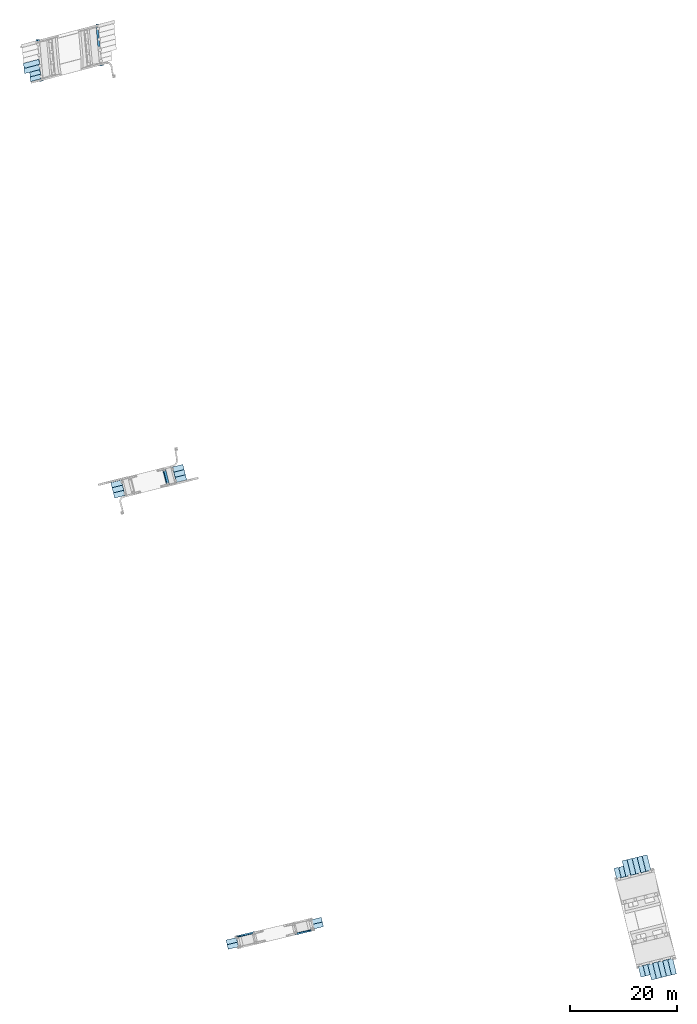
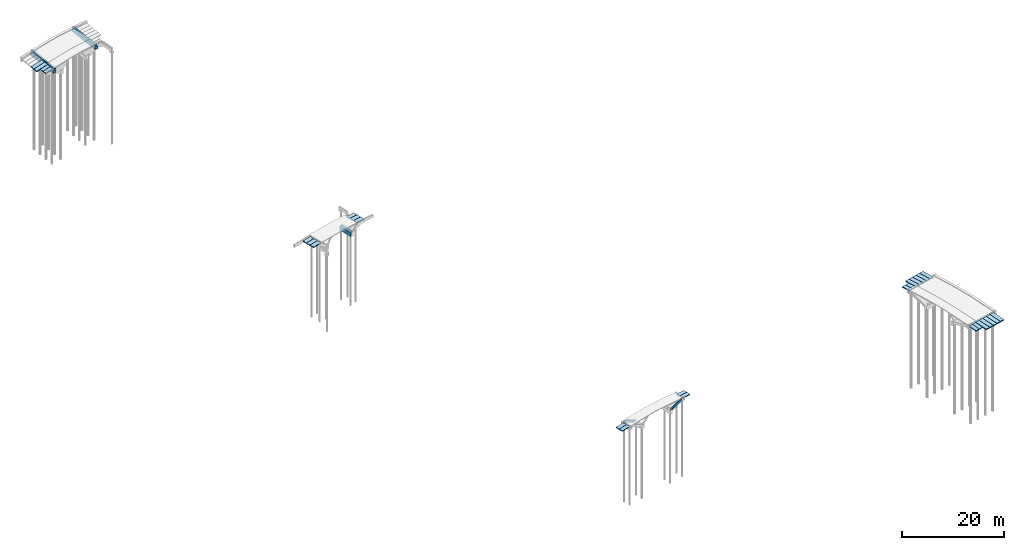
# One storey, part 3 of 15: 28 slabs, 5 footings.
"""IFC2X3 building model written with IfcOpenShell, lengths in millimetres."""

from ifc_helpers import new_model, entity, si_unit, converted_unit, derived_unit, direction, frame, frame_2d, origin, origin_2d_with_axis, place, context, subcontext, project, spatial, polyline, rectangle, outline, extrude, face_set, faceted_brep, surface_model, material, type_object, element, save


model = new_model("IFC2X3")

# Units and contexts
model_context = context("Model", 3, precision=0.01, world=origin(), true_north=direction((6.12303176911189e-17, 1.0)))
body_context = subcontext(model_context, "Body", "Model", "MODEL_VIEW")
ifc_project = project(units=[si_unit("LENGTHUNIT", "METRE", prefix="MILLI"), si_unit("AREAUNIT", "SQUARE_METRE"), si_unit("VOLUMEUNIT", "CUBIC_METRE"), converted_unit("PLANEANGLEUNIT", "DEGREE", entity("IfcRatioMeasure", 0.0174532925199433), si_unit("PLANEANGLEUNIT", "RADIAN"), dimensions=[0, 0, 0, 0, 0, 0, 0]), si_unit("MASSUNIT", "GRAM", prefix="KILO"), derived_unit("MASSDENSITYUNIT", [(si_unit("MASSUNIT", "GRAM", prefix="KILO"), 1), (si_unit("LENGTHUNIT", "METRE"), -3)]), si_unit("TIMEUNIT", "SECOND"), si_unit("FREQUENCYUNIT", "HERTZ"), si_unit("THERMODYNAMICTEMPERATUREUNIT", "DEGREE_CELSIUS"), derived_unit("THERMALTRANSMITTANCEUNIT", [(si_unit("MASSUNIT", "GRAM", prefix="KILO"), 1), (si_unit("THERMODYNAMICTEMPERATUREUNIT", "KELVIN"), -1), (si_unit("TIMEUNIT", "SECOND"), -3)]), derived_unit("VOLUMETRICFLOWRATEUNIT", [(si_unit("LENGTHUNIT", "METRE"), 3), (si_unit("TIMEUNIT", "SECOND"), -1)]), si_unit("ELECTRICCURRENTUNIT", "AMPERE"), si_unit("ELECTRICVOLTAGEUNIT", "VOLT"), si_unit("POWERUNIT", "WATT"), si_unit("FORCEUNIT", "NEWTON", prefix="KILO"), si_unit("ILLUMINANCEUNIT", "LUX"), si_unit("LUMINOUSFLUXUNIT", "LUMEN"), si_unit("LUMINOUSINTENSITYUNIT", "CANDELA"), derived_unit("USERDEFINED", [(si_unit("MASSUNIT", "GRAM", prefix="KILO"), -1), (si_unit("LENGTHUNIT", "METRE"), -2), (si_unit("TIMEUNIT", "SECOND"), 3), (si_unit("LUMINOUSFLUXUNIT", "LUMEN"), 1)]), derived_unit("LINEARVELOCITYUNIT", [(si_unit("LENGTHUNIT", "METRE"), 1), (si_unit("TIMEUNIT", "SECOND"), -1)]), si_unit("PRESSUREUNIT", "PASCAL"), derived_unit("USERDEFINED", [(si_unit("LENGTHUNIT", "METRE"), -2), (si_unit("MASSUNIT", "GRAM", prefix="KILO"), 1), (si_unit("TIMEUNIT", "SECOND"), -2)])], contexts=[model_context])

# Site, building, storey
site_placement = place(None, origin())
site = spatial("IfcSite", under=ifc_project, at=site_placement, Name="Bruggen Achterburggracht Machinesloot", CompositionType="ELEMENT")
building_placement = place(site_placement, origin())
building = spatial("IfcBuilding", under=site, at=building_placement, Name="Bruggen Achterburggracht Machinesloot", CompositionType="ELEMENT")
storey_placement = place(building_placement, origin())
storey = spatial("IfcBuildingStorey", under=building, at=storey_placement, Name="00 begane grond", CompositionType="ELEMENT", Elevation=2.70716782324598e-13)

# Footings
ifc_material_1 = material(Name="00_PBT_MAT_beton t.p.g.")
footing_1_placement = place(storey_placement, frame((-50182.6545030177, 37332.1612238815, -2350.0)))
element("IfcFooting", 1, at=footing_1_placement, inside=storey, material=ifc_material_1, Name="16_PBT_SF_funderingsbalk enkele sponning:Brug 2_600x1000", ObjectType="16_PBT_SF_funderingsbalk enkele sponning:Brug 2_600x1000", PredefinedType="NOTDEFINED", context=body_context, shape_type="Brep", body=[
    faceted_brep([(808.541298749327, 0.0, 1000.0), (808.541298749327, 0.0, 0.0), (810.6701906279, 0.538003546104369, 0.0), (810.6701906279, 0.538003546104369, 997.473997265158), (581.711949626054, 3346.4232318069, 831.46717256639), (581.711949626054, 3346.4232318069, 1190.31879435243), (1316.74949394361, 437.863483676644, 1190.3187943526), (1316.74949394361, 437.863483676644, 830.443244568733), (1316.74949394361, 437.86348367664, 0.0), (581.711949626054, 3346.4232318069, 0.0), (0.0, 3199.41572294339, 0.0), (737.166436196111, 291.393978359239, 0.0), (0.0, 3199.41572294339, 1000.0), (159.015573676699, 3239.60139107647, 811.322604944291), (737.16643619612, 291.393978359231, 997.473997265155), (894.05311799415, 331.041642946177, 811.32260494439)], [[[0, 1, 2, 3]], [[4, 5, 6, 7, 8, 9]], [[1, 10, 9, 8, 11, 2]], [[1, 0, 12, 10]], [[9, 10, 12, 13, 5, 4]], [[12, 0, 3, 14, 15, 13]], [[5, 13, 15, 6]], [[14, 11, 8, 7, 6, 15]], [[11, 14, 3, 2]]]),
])
footing_2_placement = place(storey_placement, frame((-62579.0474289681, 115635.375964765, -860.0)))
element("IfcFooting", 2, at=footing_2_placement, inside=storey, material=ifc_material_1, Name="319-150_funderingsbalk tpv stootplaat:Brug 1_700x1100", ObjectType="319-150_funderingsbalk tpv stootplaat:Brug 1_700x1100", PredefinedType="NOTDEFINED", context=body_context, shape_type="SurfaceModel", body=[
    surface_model("IfcFaceBasedSurfaceModel", [(706.114451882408, 0.0, 0.0), (1403.2402215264, 63.3692456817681, 0.0), (1403.2402215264, 63.3692456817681, 555.0), (1253.85612803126, 49.7901216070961, 600.0), (1104.47203453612, 36.2109975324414, 600.0), (1104.47203453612, 36.2109975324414, 1100.0), (706.114451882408, 0.0, 1100.0), (0.0, 7767.97286174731, 0.0), (0.0, 7767.97286174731, 1100.0), (398.357582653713, 7804.18385927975, 1100.0), (398.357582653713, 7804.18385927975, 600.0), (547.741676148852, 7817.7629833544, 600.0), (697.125769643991, 7831.34210742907, 555.0), (697.125769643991, 7831.34210742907, 0.0)], [face_set([[[0, 1, 2, 3, 4, 5, 6]], [[7, 8, 9, 10, 11, 12, 13]], [[1, 0, 7, 13]], [[2, 1, 13, 12]], [[3, 2, 12, 11]], [[4, 3, 11, 10]], [[5, 4, 10, 9]], [[6, 5, 9, 8]], [[0, 7, 8, 6]]])]),
])
footing_3_placement = place(storey_placement, frame((-73744.1008748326, 112750.136853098, -860.0)))
element("IfcFooting", 3, at=footing_3_placement, inside=storey, material=ifc_material_1, Name="319-150_funderingsbalk tpv stootplaat:Brug 1_700x1100", ObjectType="319-150_funderingsbalk tpv stootplaat:Brug 1_700x1100", PredefinedType="NOTDEFINED", context=body_context, shape_type="SurfaceModel", body=[
    surface_model("IfcFaceBasedSurfaceModel", [(697.125769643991, 7831.34210742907, 0.0), (0.0, 7767.97286174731, 0.0), (0.0, 7767.97286174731, 555.0), (149.384093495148, 7781.55198582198, 600.0), (298.768186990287, 7795.13110989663, 600.0), (298.768186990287, 7795.13110989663, 1100.0), (697.125769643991, 7831.34210742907, 1100.0), (1403.24022152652, 63.3692456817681, 0.0), (1403.24022152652, 63.3692456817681, 1100.0), (1004.88263887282, 27.1582481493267, 1100.0), (1004.88263887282, 27.1582481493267, 600.0), (855.498545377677, 13.579124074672, 600.0), (706.114451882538, 0.0, 555.0), (706.114451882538, 0.0, 0.0)], [face_set([[[0, 1, 2, 3, 4, 5, 6]], [[7, 8, 9, 10, 11, 12, 13]], [[1, 0, 7, 13]], [[2, 12, 13, 1]], [[3, 2, 12, 11]], [[4, 3, 11, 10]], [[5, 9, 10, 4]], [[6, 5, 9, 8]], [[0, 6, 8, 7]]])]),
])
footing_4_placement = place(storey_placement, frame((-36328.9327912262, -46525.4901580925, -1630.18223357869)))
element("IfcFooting", 4, at=footing_4_placement, inside=storey, material=ifc_material_1, Name="16_PBT_SF_funderingsbalk:300x500 i.h.w.g.", ObjectType="16_PBT_SF_funderingsbalk:300x500 i.h.w.g.", PredefinedType="NOTDEFINED", context=body_context, shape_type="Brep", body=[
    faceted_brep([(0.0, 291.857014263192, 1274.1812778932), (69.4224979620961, 0.0, 1274.18272028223), (201.9895374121, 31.5345392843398, 1580.24136807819), (132.567039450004, 323.39155354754, 1580.23992568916), (3367.89164380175, 1092.95483140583, 280.181508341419), (527.169008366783, 417.253455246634, 1580.23992568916), (596.591506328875, 125.396440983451, 1580.24136807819), (3437.31570878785, 801.098189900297, 280.182233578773), (3437.31414176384, 801.09781714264, 280.182950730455), (324.164868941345, 60.5957449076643, 1580.24136807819), (324.165339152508, 60.593768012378, 1157.59950627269), (2853.5974268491, 662.250797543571, 0.0033947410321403), (2853.59704838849, 662.252388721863, 340.182233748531), (3096.81122696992, 720.104470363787, 340.182233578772), (3096.811293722, 720.104189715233, 280.182233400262), (2784.17919491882, 954.108826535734, 0.0), (3367.89164380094, 1092.95483140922, 280.182233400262), (3027.39306178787, 1011.96221872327, 280.182233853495), (3027.39299503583, 1011.96249937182, 340.182233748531), (2784.17881645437, 954.110417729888, 340.182233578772), (3027.37984008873, 1012.01780727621, 280.182233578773), (3027.39306260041, 1011.96221891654, 280.182233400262), (3367.89005911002, 1092.95445444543, 280.182233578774), (3437.31383113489, 801.097743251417, 280.182233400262), (3027.37984008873, 1012.01780727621, 340.182233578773), (2784.16481594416, 954.169280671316, 340.182233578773)], [[[0, 1, 2, 3]], [[4, 5, 6, 7]], [[8, 6, 9, 2, 1, 10, 11, 12, 13, 14]], [[1, 0, 15, 11, 10]], [[5, 16, 17, 18, 19, 15, 0, 3]], [[20, 14, 13, 18]], [[14, 21, 22, 23]], [[24, 13, 12, 19]], [[25, 12, 11, 15]], [[2, 9, 6, 5, 3]]]),
])
footing_5_placement = place(storey_placement, frame((-25665.1292745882, -46147.5905152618, -1630.16466344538)))
element("IfcFooting", 5, at=footing_5_placement, inside=storey, material=ifc_material_1, Name="16_PBT_SF_funderingsbalk:300x500 i.h.w.g.", ObjectType="16_PBT_SF_funderingsbalk:300x500 i.h.w.g.", PredefinedType="NOTDEFINED", context=body_context, shape_type="Brep", body=[
    faceted_brep([(69.4177615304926, 3.38720838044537e-09, 280.163938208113), (2910.18019979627, 675.646018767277, 1580.23389281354), (2840.76400529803, 967.504532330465, 1580.23533520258), (0.0, 291.858140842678, 280.164663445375), (0.00156703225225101, 291.858513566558, 280.165380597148), (3113.20872736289, 1032.30331303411, 1580.2353351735), (3113.20825713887, 1032.3052898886, 1157.60110932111), (583.752255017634, 430.70029312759, 0.0), (583.752633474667, 430.698702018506, 340.164663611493), (340.53720547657, 372.851873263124, 340.164663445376), (340.53713872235, 372.852153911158, 280.164663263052), (3182.63075512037, 740.448275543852, 1157.60255171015), (653.172715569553, 138.842794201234, 0.000509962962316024), (69.4177615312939, 0.0, 280.164662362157), (409.957599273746, 80.9946549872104, 280.164663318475), (409.957665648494, 80.9943742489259, 340.164662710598), (653.173094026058, 138.84120309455, 340.164663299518), (3182.63122534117, 740.446298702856, 1580.23389278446), (409.951491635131, 81.0203327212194, 280.164663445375), (394.459007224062, 146.1538353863, 280.164663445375), (394.213373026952, 147.186530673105, 340.164663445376), (409.957666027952, 80.9943743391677, 340.164663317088), (409.957598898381, 80.9946548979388, 280.164662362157), (69.4144226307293, 0.0210770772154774, 280.164663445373), (0.00187766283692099, 291.858587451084, 280.164663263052), (409.951491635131, 81.0203327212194, 340.164663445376), (653.17309359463, 138.841202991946, 340.164662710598), (653.16607404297, 138.870716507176, 340.164663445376)], [[[0, 1, 2, 3]], [[4, 2, 5, 6, 7, 8, 9, 10]], [[6, 11, 12, 7]], [[1, 13, 14, 15, 16, 12, 11, 17]], [[2, 1, 17, 5]], [[6, 5, 17, 11]], [[18, 19, 10, 9, 20, 21]], [[10, 19, 22, 23, 24]], [[25, 20, 9, 8, 26]], [[27, 8, 7, 12]]]),
])

# Slabs
ifc_material_2 = material(Name="00_PBT_MAT_beton prefab")
slab_type_1 = type_object("IfcSlabType", Name="Strootplaat 3", PredefinedType="FLOOR", material=ifc_material_2)
slab_1_placement = place(storey_placement, origin())
element("IfcSlab", 6, at=slab_1_placement, inside=storey, type_object=slab_type_1, Name="Strootplaat1:Strootplaat 3", ObjectType="Strootplaat1:Strootplaat 3", PredefinedType="FLOOR", context=body_context, shape_type="SweptSolid", body=[
    extrude(rectangle(XDim=200.0, YDim=885.000000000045, at=frame_2d((-1.77635683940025e-13, 4.83169060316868e-13), x_axis=(1.0, 0.0))), frame((-38036.653625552, -48328.2566855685, -452.20341270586), z_axis=(0.97152095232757, 0.231101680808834, 0.0523359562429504), x_axis=(0.0509152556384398, 0.0121115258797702, -0.998629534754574)), (0.0, -3.81275281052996e-06, 1.0), 1999.99649648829),
])
slab_type_2 = type_object("IfcSlabType", Name="Strootplaat 3", PredefinedType="FLOOR", material=ifc_material_2)
slab_2_placement = place(storey_placement, origin())
element("IfcSlab", 7, at=slab_2_placement, inside=storey, type_object=slab_type_2, Name="Strootplaat 2:Strootplaat 3", ObjectType="Strootplaat 2:Strootplaat 3", PredefinedType="FLOOR", context=body_context, shape_type="SweptSolid", body=[
    extrude(rectangle(XDim=200.0, YDim=885.000000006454, at=frame_2d((-2.1316282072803e-14, 0.0), x_axis=(1.0, 0.0))), frame((-22257.6750364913, -44580.0804966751, -347.531588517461), z_axis=(0.971521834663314, 0.231097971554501, -0.05233595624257), x_axis=(-0.0509152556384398, -0.0121115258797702, -0.998629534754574)), (0.0, 3.8127528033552e-06, 1.0), 1999.99831288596),
])
slab_type_3 = type_object("IfcSlabType", Name="Strootplaat 3", PredefinedType="FLOOR", material=ifc_material_2)
slab_3_placement = place(storey_placement, origin())
element("IfcSlab", 8, at=slab_3_placement, inside=storey, type_object=slab_type_3, Name="Strootplaat 4:Strootplaat 3", ObjectType="Strootplaat 4:Strootplaat 3", PredefinedType="FLOOR", context=body_context, shape_type="SweptSolid", body=[
    extrude(rectangle(XDim=200.0, YDim=885.000000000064, at=frame_2d((-4.2632564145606e-14, -4.71800376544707e-12), x_axis=(1.0, 0.0))), frame((-38242.6272888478, -47462.2168349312, -452.203412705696), z_axis=(0.971525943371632, 0.23108069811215, 0.052335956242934), x_axis=(0.0509155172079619, 0.0121104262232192, -0.998629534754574)), (0.0, -3.81275280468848e-06, 1.0), 1999.99649666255),
])
slab_type_4 = type_object("IfcSlabType", Name="Strootplaat 3", PredefinedType="FLOOR", material=ifc_material_2)
slab_4_placement = place(storey_placement, origin())
element("IfcSlab", 9, at=slab_4_placement, inside=storey, type_object=slab_type_4, Name="Strootplaat 1:Strootplaat 3", ObjectType="Strootplaat 1:Strootplaat 3", PredefinedType="FLOOR", context=body_context, shape_type="SweptSolid", body=[
    extrude(rectangle(XDim=200.0, YDim=885.00000000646, at=origin_2d_with_axis()), frame((-22464.2821100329, -43709.222047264, -347.53158851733), z_axis=(0.971525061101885, 0.231084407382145, -0.0523359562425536), x_axis=(-0.0509155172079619, -0.0121104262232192, -0.998629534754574)), (0.0, -3.81275280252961e-06, 1.0), 1999.99831288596),
])
slab_type_5 = type_object("IfcSlabType", Name="Strootplaat 3", PredefinedType="FLOOR", material=ifc_material_2)
slab_5_placement = place(storey_placement, origin())
element("IfcSlab", 10, at=slab_5_placement, inside=storey, type_object=slab_type_5, Name="Strootplaat 3:Strootplaat 3", ObjectType="Strootplaat 3:Strootplaat 3", PredefinedType="FLOOR", context=body_context, shape_type="SweptSolid", body=[
    extrude(rectangle(XDim=200.0, YDim=990.000000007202, at=frame_2d((1.20792265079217e-13, -5.22959453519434e-12), x_axis=(1.0, 0.0))), frame((-47960.7973825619, 39545.9167415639, -82.5315780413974), z_axis=(0.968192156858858, 0.244673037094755, -0.0523359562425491), x_axis=(-0.0507407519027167, -0.012822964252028, -0.998629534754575)), (0.0, 3.81275279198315e-06, 1.0), 1999.99851305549),
])
slab_type_6 = type_object("IfcSlabType", Name="Strootplaat 3", PredefinedType="FLOOR", material=ifc_material_2)
slab_6_placement = place(storey_placement, origin())
element("IfcSlab", 11, at=slab_6_placement, inside=storey, type_object=slab_type_6, Name="Strootplaat 5:Strootplaat 3", ObjectType="Strootplaat 5:Strootplaat 3", PredefinedType="FLOOR", context=body_context, shape_type="SweptSolid", body=[
    extrude(rectangle(XDim=200.0, YDim=990.000000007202, at=frame_2d((1.20792265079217e-13, -5.22959453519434e-12), x_axis=(1.0, 0.0))), frame((-48204.5848347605, 40510.5890580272, -82.5315780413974), z_axis=(0.968192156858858, 0.244673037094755, -0.0523359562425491), x_axis=(-0.0507407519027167, -0.012822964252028, -0.998629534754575)), (0.0, 3.81275279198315e-06, 1.0), 1999.99851305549),
])
slab_type_7 = type_object("IfcSlabType", Name="Strootplaat 3", PredefinedType="FLOOR", material=ifc_material_2)
slab_7_placement = place(storey_placement, origin())
element("IfcSlab", 12, at=slab_7_placement, inside=storey, type_object=slab_type_7, Name="Strootplaat 6:Strootplaat 3", ObjectType="Strootplaat 6:Strootplaat 3", PredefinedType="FLOOR", context=body_context, shape_type="SweptSolid", body=[
    extrude(rectangle(XDim=200.0, YDim=990.000000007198, at=frame_2d((6.3948846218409e-14, -3.18323145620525e-12), x_axis=(1.0, 0.0))), frame((-47717.0099303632, 38581.2444251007, -82.5315780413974), z_axis=(0.968192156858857, 0.244673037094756, -0.0523359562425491), x_axis=(-0.0507407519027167, -0.012822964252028, -0.998629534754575)), (0.0, 3.81275279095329e-06, 1.0), 1999.99851305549),
])
slab_type_8 = type_object("IfcSlabType", Name="Strootplaat 3", PredefinedType="FLOOR", material=ifc_material_2)
slab_8_placement = place(storey_placement, origin())
element("IfcSlab", 13, at=slab_8_placement, inside=storey, type_object=slab_type_8, Name="Strootplaat 7:Strootplaat 3", ObjectType="Strootplaat 7:Strootplaat 3", PredefinedType="FLOOR", context=body_context, shape_type="SweptSolid", body=[
    extrude(rectangle(XDim=200.0, YDim=990.00000000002, at=frame_2d((4.2632564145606e-13, 0.0), x_axis=(1.0, 0.0))), frame((-59422.9745811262, 36649.2492118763, -187.203412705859), z_axis=(0.968191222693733, 0.244676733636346, 0.0523359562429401), x_axis=(0.0507407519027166, 0.0128229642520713, -0.998629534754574)), (0.0, 3.81275281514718e-06, 1.0), 2000.00044279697),
])
slab_type_9 = type_object("IfcSlabType", Name="Strootplaat 3", PredefinedType="FLOOR", material=ifc_material_2)
slab_9_placement = place(storey_placement, origin())
element("IfcSlab", 14, at=slab_9_placement, inside=storey, type_object=slab_type_9, Name="Strootplaat 8:Strootplaat 3", ObjectType="Strootplaat 8:Strootplaat 3", PredefinedType="FLOOR", context=body_context, shape_type="SweptSolid", body=[
    extrude(rectangle(XDim=200.0, YDim=990.000000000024, at=frame_2d((-1.4210854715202e-14, 0.0), x_axis=(1.0, 0.0))), frame((-59666.7620333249, 37613.9215283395, -187.203412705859), z_axis=(0.968191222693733, 0.244676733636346, 0.0523359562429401), x_axis=(0.0507407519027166, 0.0128229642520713, -0.998629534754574)), (0.0, 3.81275281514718e-06, 1.0), 2000.00044279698),
])
slab_type_10 = type_object("IfcSlabType", Name="Strootplaat 3", PredefinedType="FLOOR", material=ifc_material_2)
slab_10_placement = place(storey_placement, origin())
element("IfcSlab", 15, at=slab_10_placement, inside=storey, type_object=slab_type_10, Name="Strootplaat 9:Strootplaat 3", ObjectType="Strootplaat 9:Strootplaat 3", PredefinedType="FLOOR", context=body_context, shape_type="SweptSolid", body=[
    extrude(rectangle(XDim=200.0, YDim=990.000000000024, at=frame_2d((-1.4210854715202e-14, 0.0), x_axis=(1.0, 0.0))), frame((-59179.1871289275, 35684.5768954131, -187.203412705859), z_axis=(0.968191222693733, 0.244676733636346, 0.0523359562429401), x_axis=(0.0507407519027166, 0.0128229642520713, -0.998629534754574)), (0.0, 3.81275281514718e-06, 1.0), 2000.00044279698),
])
slab_type_11 = type_object("IfcSlabType", Name="Strootplaat 3", PredefinedType="FLOOR", material=ifc_material_2)
slab_11_placement = place(storey_placement, origin())
element("IfcSlab", 16, at=slab_11_placement, inside=storey, type_object=slab_type_11, Name="Strootplaat 14:Strootplaat 3", ObjectType="Strootplaat 14:Strootplaat 3", PredefinedType="FLOOR", context=body_context, shape_type="SweptSolid", body=[
    extrude(rectangle(XDim=250.000000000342, YDim=950.00000000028, at=frame_2d((-3.05533376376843e-13, 5.22959453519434e-12), x_axis=(1.0, 0.0))), frame((41295.229444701, -54352.0467557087, -354.713003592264), z_axis=(-0.239781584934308, 0.96941515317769, 0.0523359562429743), x_axis=(-0.012566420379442, 0.0508048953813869, -0.998629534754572)), (0.0, -3.81275280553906e-06, 1.0), 2999.99352799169),
])
slab_type_12 = type_object("IfcSlabType", Name="Strootplaat 3", PredefinedType="FLOOR", material=ifc_material_2)
slab_12_placement = place(storey_placement, origin())
element("IfcSlab", 17, at=slab_12_placement, inside=storey, type_object=slab_type_12, Name="Strootplaat 10:Strootplaat 3", ObjectType="Strootplaat 10:Strootplaat 3", PredefinedType="FLOOR", context=body_context, shape_type="SweptSolid", body=[
    extrude(rectangle(XDim=250.000000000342, YDim=950.00000000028, at=frame_2d((1.20792265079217e-13, 5.22959453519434e-12), x_axis=(1.0, 0.0))), frame((42227.1155693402, -54121.4209490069, -354.713003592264), z_axis=(-0.239781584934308, 0.96941515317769, 0.0523359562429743), x_axis=(-0.012566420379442, 0.0508048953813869, -0.998629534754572)), (0.0, -3.81275280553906e-06, 1.0), 2999.99352799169),
])
slab_type_13 = type_object("IfcSlabType", Name="Strootplaat 3", PredefinedType="FLOOR", material=ifc_material_2)
slab_13_placement = place(storey_placement, origin())
element("IfcSlab", 18, at=slab_13_placement, inside=storey, type_object=slab_type_13, Name="Strootplaat 11:Strootplaat 3", ObjectType="Strootplaat 11:Strootplaat 3", PredefinedType="FLOOR", context=body_context, shape_type="SweptSolid", body=[
    extrude(rectangle(XDim=250.000000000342, YDim=950.00000000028, at=frame_2d((1.20792265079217e-13, 5.22959453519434e-12), x_axis=(1.0, 0.0))), frame((43159.0624144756, -53891.0406156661, -354.713003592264), z_axis=(-0.239781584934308, 0.96941515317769, 0.0523359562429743), x_axis=(-0.012566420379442, 0.0508048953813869, -0.998629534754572)), (0.0, -3.81275280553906e-06, 1.0), 2999.99352799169),
])
slab_type_14 = type_object("IfcSlabType", Name="Strootplaat 3", PredefinedType="FLOOR", material=ifc_material_2)
slab_14_placement = place(storey_placement, origin())
element("IfcSlab", 19, at=slab_14_placement, inside=storey, type_object=slab_type_14, Name="Strootplaat 12:Strootplaat 3", ObjectType="Strootplaat 12:Strootplaat 3", PredefinedType="FLOOR", context=body_context, shape_type="SweptSolid", body=[
    extrude(rectangle(XDim=250.000000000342, YDim=950.00000000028, at=frame_2d((1.20792265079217e-13, 5.22959453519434e-12), x_axis=(1.0, 0.0))), frame((44090.9781196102, -53660.5343933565, -354.713003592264), z_axis=(-0.239781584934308, 0.96941515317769, 0.0523359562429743), x_axis=(-0.012566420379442, 0.0508048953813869, -0.998629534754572)), (0.0, -3.81275280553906e-06, 1.0), 2999.99352799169),
])
slab_type_15 = type_object("IfcSlabType", Name="Strootplaat 3", PredefinedType="FLOOR", material=ifc_material_2)
slab_15_placement = place(storey_placement, origin())
element("IfcSlab", 20, at=slab_15_placement, inside=storey, type_object=slab_type_15, Name="Strootplaat 13:Strootplaat 3", ObjectType="Strootplaat 13:Strootplaat 3", PredefinedType="FLOOR", context=body_context, shape_type="SweptSolid", body=[
    extrude(rectangle(XDim=250.000000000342, YDim=950.00000000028, at=frame_2d((-3.05533376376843e-13, 5.22959453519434e-12), x_axis=(1.0, 0.0))), frame((45022.8938247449, -53430.0281710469, -354.713003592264), z_axis=(-0.239781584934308, 0.96941515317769, 0.0523359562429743), x_axis=(-0.012566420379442, 0.0508048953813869, -0.998629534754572)), (0.0, -3.81275280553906e-06, 1.0), 2999.9935279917),
])
slab_type_16 = type_object("IfcSlabType", Name="Strootplaat 3", PredefinedType="FLOOR", material=ifc_material_2)
slab_16_placement = place(storey_placement, origin())
element("IfcSlab", 21, at=slab_16_placement, inside=storey, type_object=slab_type_16, Name="Strootplaat 15:Strootplaat 3", ObjectType="Strootplaat 15:Strootplaat 3", PredefinedType="FLOOR", context=body_context, shape_type="SweptSolid", body=[
    extrude(rectangle(XDim=199.999801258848, YDim=884.969877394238, at=frame_2d((4.2632564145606e-13, -3.15480974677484e-12), x_axis=(1.0, 0.0))), frame((39285.9346456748, -53818.9644488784, -327.342845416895), z_axis=(-0.239781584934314, 0.969415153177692, 0.0523359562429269), x_axis=(-0.0125664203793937, 0.05080489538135, -0.998629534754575)), (0.0, -3.8127528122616e-06, 1.0), 1999.99384089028),
])
slab_type_17 = type_object("IfcSlabType", Name="Strootplaat 3", PredefinedType="FLOOR", material=ifc_material_2)
slab_17_placement = place(storey_placement, origin())
element("IfcSlab", 22, at=slab_17_placement, inside=storey, type_object=slab_type_17, Name="Strootplaat 16:Strootplaat 3", ObjectType="Strootplaat 16:Strootplaat 3", PredefinedType="FLOOR", context=body_context, shape_type="SweptSolid", body=[
    extrude(rectangle(XDim=199.999801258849, YDim=884.969877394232, at=frame_2d((-4.05009359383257e-13, 1.05160324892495e-12), x_axis=(1.0, 0.0))), frame((40154.7518916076, -53604.0654187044, -327.342845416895), z_axis=(-0.239781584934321, 0.969415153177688, 0.0523359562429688), x_axis=(-0.0125664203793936, 0.0508048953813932, -0.998629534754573)), (0.0, -3.81275282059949e-06, 1.0), 1999.99384089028),
])
slab_type_18 = type_object("IfcSlabType", Name="Strootplaat 3", PredefinedType="FLOOR", material=ifc_material_2)
slab_18_placement = place(storey_placement, origin())
element("IfcSlab", 23, at=slab_18_placement, inside=storey, type_object=slab_type_18, Name="Strootplaat 17:Strootplaat 3", ObjectType="Strootplaat 17:Strootplaat 3", PredefinedType="FLOOR", context=body_context, shape_type="SweptSolid", body=[
    extrude(rectangle(XDim=250.000000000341, YDim=950.000000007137, at=frame_2d((-1.06581410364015e-13, -4.68958205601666e-12), x_axis=(1.0, 0.0))), frame((36535.0458494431, -35107.9945634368, -197.705325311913), z_axis=(-0.239811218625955, 0.969407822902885, -0.0523359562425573), x_axis=(0.0125677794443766, -0.0508045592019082, -0.998629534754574)), (0.0, -3.81275280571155e-06, 1.0), 2999.99636106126),
])
slab_type_19 = type_object("IfcSlabType", Name="Strootplaat 3", PredefinedType="FLOOR", material=ifc_material_2)
slab_19_placement = place(storey_placement, origin())
element("IfcSlab", 24, at=slab_19_placement, inside=storey, type_object=slab_type_19, Name="Strootplaat 18:Strootplaat 3", ObjectType="Strootplaat 18:Strootplaat 3", PredefinedType="FLOOR", context=body_context, shape_type="SweptSolid", body=[
    extrude(rectangle(XDim=250.000000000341, YDim=950.000000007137, at=frame_2d((-1.06581410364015e-13, -4.68958205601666e-12), x_axis=(1.0, 0.0))), frame((37466.9849685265, -34877.5829961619, -197.705325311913), z_axis=(-0.239811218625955, 0.969407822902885, -0.0523359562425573), x_axis=(0.0125677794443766, -0.0508045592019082, -0.998629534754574)), (0.0, -3.81275280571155e-06, 1.0), 2999.99636106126),
])
slab_type_20 = type_object("IfcSlabType", Name="Strootplaat 3", PredefinedType="FLOOR", material=ifc_material_2)
slab_20_placement = place(storey_placement, origin())
element("IfcSlab", 25, at=slab_20_placement, inside=storey, type_object=slab_type_20, Name="Strootplaat 19:Strootplaat 3", ObjectType="Strootplaat 19:Strootplaat 3", PredefinedType="FLOOR", context=body_context, shape_type="SweptSolid", body=[
    extrude(rectangle(XDim=250.000000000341, YDim=950.000000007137, at=frame_2d((-1.06581410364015e-13, -4.68958205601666e-12), x_axis=(1.0, 0.0))), frame((38398.8633671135, -34646.9259555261, -197.705325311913), z_axis=(-0.239811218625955, 0.969407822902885, -0.0523359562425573), x_axis=(0.0125677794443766, -0.0508045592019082, -0.998629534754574)), (0.0, -3.81275280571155e-06, 1.0), 2999.99636106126),
])
slab_type_21 = type_object("IfcSlabType", Name="Strootplaat 3", PredefinedType="FLOOR", material=ifc_material_2)
slab_21_placement = place(storey_placement, origin())
element("IfcSlab", 26, at=slab_21_placement, inside=storey, type_object=slab_type_21, Name="Strootplaat 20:Strootplaat 3", ObjectType="Strootplaat 20:Strootplaat 3", PredefinedType="FLOOR", context=body_context, shape_type="SweptSolid", body=[
    extrude(rectangle(XDim=250.000000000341, YDim=950.000000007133, at=frame_2d((1.70530256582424e-13, 2.70006239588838e-12), x_axis=(1.0, 0.0))), frame((39330.7729057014, -34416.3948038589, -197.705325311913), z_axis=(-0.239811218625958, 0.969407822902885, -0.0523359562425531), x_axis=(0.0125677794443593, -0.0508045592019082, -0.998629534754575)), (0.0, -3.81275280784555e-06, 1.0), 2999.99636106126),
])
slab_type_22 = type_object("IfcSlabType", Name="Strootplaat 3", PredefinedType="FLOOR", material=ifc_material_2)
slab_22_placement = place(storey_placement, origin())
element("IfcSlab", 27, at=slab_22_placement, inside=storey, type_object=slab_type_22, Name="Strootplaat 21:Strootplaat 3", ObjectType="Strootplaat 21:Strootplaat 3", PredefinedType="FLOOR", context=body_context, shape_type="SweptSolid", body=[
    extrude(rectangle(XDim=250.000000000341, YDim=950.000000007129, at=frame_2d((2.48689957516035e-13, 5.40012479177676e-13), x_axis=(1.0, 0.0))), frame((40262.6824442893, -34185.8636521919, -197.705325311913), z_axis=(-0.239811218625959, 0.969407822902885, -0.0523359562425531), x_axis=(0.0125677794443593, -0.0508045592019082, -0.998629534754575)), (0.0, -3.81275280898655e-06, 1.0), 2999.99636106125),
])
slab_type_23 = type_object("IfcSlabType", Name="Strootplaat 3", PredefinedType="FLOOR", material=ifc_material_2)
slab_23_placement = place(storey_placement, origin())
element("IfcSlab", 28, at=slab_23_placement, inside=storey, type_object=slab_type_23, Name="Strootplaat 22:Strootplaat 3", ObjectType="Strootplaat 22:Strootplaat 3", PredefinedType="FLOOR", context=body_context, shape_type="SweptSolid", body=[
    extrude(rectangle(XDim=199.999801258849, YDim=884.969877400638, at=frame_2d((3.5527136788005e-14, -2.07478478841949e-12), x_axis=(1.0, 0.0))), frame((34766.1785259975, -35546.9385399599, -222.671156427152), z_axis=(-0.239811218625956, 0.969407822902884, -0.0523359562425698), x_axis=(0.0125677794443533, -0.0508045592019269, -0.998629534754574)), (0.0, -3.81275281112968e-06, 1.0), 1999.9957296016),
])
slab_type_24 = type_object("IfcSlabType", Name="Strootplaat 3", PredefinedType="FLOOR", material=ifc_material_2)
slab_24_placement = place(storey_placement, origin())
element("IfcSlab", 29, at=slab_24_placement, inside=storey, type_object=slab_type_24, Name="Strootplaat 23:Strootplaat 3", ObjectType="Strootplaat 23:Strootplaat 3", PredefinedType="FLOOR", context=body_context, shape_type="SweptSolid", body=[
    extrude(rectangle(XDim=199.999801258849, YDim=884.969877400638, at=frame_2d((3.5527136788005e-14, -2.07478478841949e-12), x_axis=(1.0, 0.0))), frame((35634.9900229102, -35332.0162683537, -222.671156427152), z_axis=(-0.239811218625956, 0.969407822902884, -0.0523359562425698), x_axis=(0.0125677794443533, -0.0508045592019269, -0.998629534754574)), (0.0, -3.81275281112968e-06, 1.0), 1999.9957296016),
])
slab_type_25 = type_object("IfcSlabType", Name="Strootplaat 3", PredefinedType="FLOOR", material=ifc_material_2)
slab_25_placement = place(storey_placement, origin())
element("IfcSlab", 30, at=slab_25_placement, inside=storey, type_object=slab_type_25, Name="Strootplaat 31:Strootplaat 3", ObjectType="Strootplaat 31:Strootplaat 3", PredefinedType="FLOOR", context=body_context, shape_type="SweptSolid", body=[
    extrude(outline(polyline([(-265.862274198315, -986.284327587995), (595.957059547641, -986.284327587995), (265.862274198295, 986.284327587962), (-595.957059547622, 986.284327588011), (-265.862274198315, -986.284327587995)])), frame((-73877.6940172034, 114264.823090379, -301.841378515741), z_axis=(-0.0506242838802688, -0.0132753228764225, 0.998629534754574), x_axis=(0.0907462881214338, -0.995836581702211, -0.00863792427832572)), (0.0, 0.0, 1.0), 199.999801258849),
])
slab_type_26 = type_object("IfcSlabType", Name="Strootplaat 3", PredefinedType="FLOOR", material=ifc_material_2)
slab_26_placement = place(storey_placement, origin())
element("IfcSlab", 31, at=slab_26_placement, inside=storey, type_object=slab_type_26, Name="Strootplaat 34:Strootplaat 3", ObjectType="Strootplaat 34:Strootplaat 3", PredefinedType="FLOOR", context=body_context, shape_type="SweptSolid", body=[
    extrude(outline(polyline([(-234.033809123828, -1479.4266327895), (729.176034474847, -1479.4266327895), (234.034116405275, 1479.4247965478), (-729.176341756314, 1479.42846903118), (-234.033809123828, -1479.4266327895)])), frame((-74532.235056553, 116026.408395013, -327.877788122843), z_axis=(-0.0506242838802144, -0.0132753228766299, 0.998629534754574), x_axis=(0.090746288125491, -0.995836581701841, -0.00863792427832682)), (0.0, 0.0, 1.0), 250.000000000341),
])
slab_type_27 = type_object("IfcSlabType", Name="Strootplaat 3", PredefinedType="FLOOR", material=ifc_material_2)
slab_27_placement = place(storey_placement, origin())
element("IfcSlab", 32, at=slab_27_placement, inside=storey, type_object=slab_type_27, Name="Strootplaat 35:Strootplaat 3", ObjectType="Strootplaat 35:Strootplaat 3", PredefinedType="FLOOR", context=body_context, shape_type="SweptSolid", body=[
    extrude(outline(polyline([(-234.033809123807, -1479.42663278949), (729.176034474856, -1479.42663278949), (234.034116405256, 1479.4247965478), (-729.176341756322, 1479.42846903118), (-234.033809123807, -1479.42663278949)])), frame((-74443.9072573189, 115057.111959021, -327.877788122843), z_axis=(-0.0506242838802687, -0.0132753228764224, 0.998629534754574), x_axis=(0.0907462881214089, -0.995836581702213, -0.00863792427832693)), (0.0, 0.0, 1.0), 250.000000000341),
])
slab_type_28 = type_object("IfcSlabType", Name="Strootplaat 3", PredefinedType="FLOOR", material=ifc_material_2)
slab_28_placement = place(storey_placement, origin())
element("IfcSlab", 33, at=slab_28_placement, inside=storey, type_object=slab_type_28, Name="Strootplaat 36:Strootplaat 3", ObjectType="Strootplaat 36:Strootplaat 3", PredefinedType="FLOOR", context=body_context, shape_type="SweptSolid", body=[
    extrude(outline(polyline([(-265.862274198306, -986.284327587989), (595.957059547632, -986.284327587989), (265.862274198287, 986.284327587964), (-595.95705954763, 986.284327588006), (-265.862274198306, -986.284327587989)])), frame((-73798.689048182, 113396.463036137, -301.841378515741), z_axis=(-0.0506242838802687, -0.0132753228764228, 0.998629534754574), x_axis=(0.0907462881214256, -0.995836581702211, -0.00863792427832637)), (0.0, 0.0, 1.0), 199.999801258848),
])

save(model, "model.ifc")
